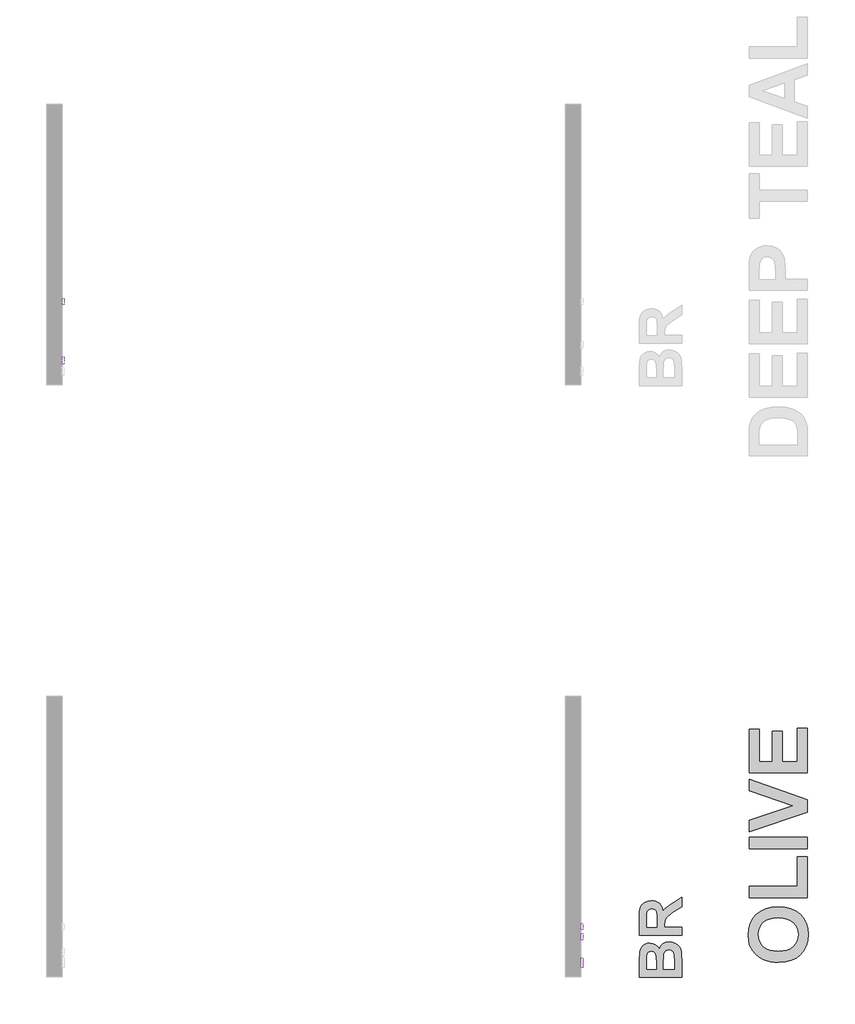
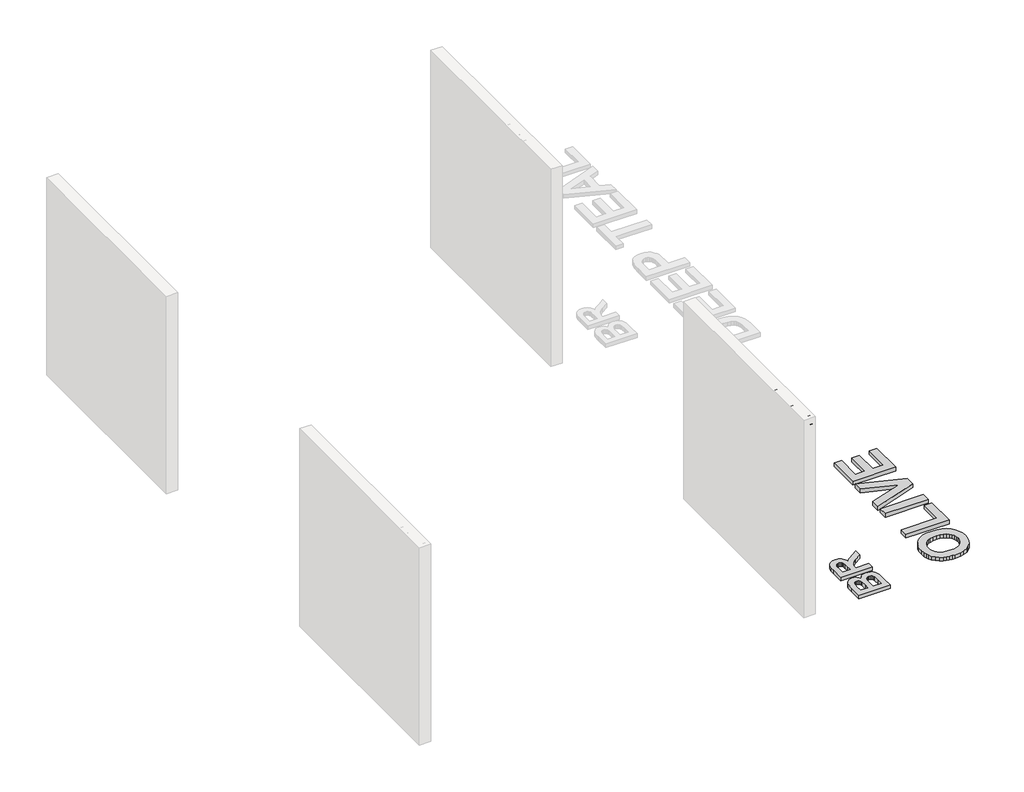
# One storey, part 2 of 10: 7 proxies.
"""IFC4 building model written with IfcOpenShell, lengths in millimetres."""

from ifc_helpers import new_model, si_unit, frame, origin, origin_with_axes, place, context, project, spatial, polyline, outline, extrude, element, save

model = new_model("IFC4")

# Units and contexts
model_context = context("Model", 3, world=origin())
ifc_project = project(units=[si_unit("LENGTHUNIT", "METRE", prefix="MILLI")], contexts=[model_context])

# Site, building, storey
site = spatial("IfcSite", under=ifc_project)
building = spatial("IfcBuilding", under=site)
storey = spatial("IfcBuildingStorey", under=building, Name="PORTOBELLO - SHOWROOM", Elevation=0.0)

# Proxies
placement = place(None, origin())
element("IfcBuildingElementProxy", 1, Name="10mm Arial", ObjectType="10mm Arial", at=placement, inside=storey, context=model_context, shape_type="SweptSolid", body=[
    extrude(outline(polyline([(-1939.686688, 2410.158275), (-1927.1296493, 2411.7279049), (-1920.8020789, 2398.7907214), (-1907.6809544, 2394.4619766), (-1898.6801083, 2395.9672271), (-1891.935605, 2400.4829786), (-1887.7233562, 2407.4880649), (-1886.3192733, 2416.4613199), (-1891.5799858, 2431.3728034), (-1898.1865333, 2435.4746877), (-1907.4847507, 2436.8419824), (-1918.5089478, 2434.6592159), (-1925.5600194, 2428.9938332), (-1938.1170582, 2430.563463), (-1927.1296493, 2482.361248), (-1878.471124, 2482.361248), (-1878.471124, 2469.8042092), (-1916.9761062, 2469.8042092), (-1922.3717088, 2442.1394832), (-1913.4015195, 2447.5841367), (-1904.0021345, 2449.3990212), (-1892.2666988, 2447.1488097), (-1882.517826, 2440.3981751), (-1875.9511324, 2430.1097419), (-1873.7622345, 2417.2461348), (-1875.7304032, 2404.6890961), (-1881.6349092, 2393.9469418), (-1892.9411492, 2384.9154388), (-1907.7300054, 2381.9049378), (-1920.0632493, 2383.839384), (-1929.8887642, 2389.6427224), (-1936.6240704, 2398.6405029), (-1939.686688, 2410.158275)])), frame((-12116.0080774, 0.0, 0.0), z_axis=(1.0, 0.0, 0.0), x_axis=(0.0, 1.0, 0.0)), (0.0, 0.0, 1.0), 20.0),
    extrude(outline(polyline([(-1856.4963062, 2383.4745677), (-1856.4963062, 2396.0316064), (-1843.9392674, 2396.0316064), (-1843.9392674, 2383.4745677), (-1846.1956103, 2370.635486), (-1853.3570465, 2363.0693797), (-1856.4963062, 2367.7782692), (-1851.8855185, 2373.1983973), (-1850.2423123, 2383.4745677), (-1856.4963062, 2383.4745677)])), frame((-12116.0080774, 0.0, 0.0), z_axis=(1.0, 0.0, 0.0), x_axis=(0.0, 1.0, 0.0)), (0.0, 0.0, 1.0), 20.0),
    extrude(outline(polyline([(-1782.7237034, 2383.4745677), (-1782.7237034, 2407.0190154), (-1828.2429689, 2407.0190154), (-1828.2429689, 2419.5760541), (-1779.5844437, 2482.361248), (-1770.1666646, 2482.361248), (-1770.1666646, 2419.5760541), (-1757.6096259, 2419.5760541), (-1757.6096259, 2407.0190154), (-1770.1666646, 2407.0190154), (-1770.1666646, 2383.4745677), (-1782.7237034, 2383.4745677)]), holes=[polyline([(-1782.7237034, 2419.5760541), (-1782.7237034, 2458.3753419), (-1812.7919252, 2419.5760541), (-1782.7237034, 2419.5760541)])]), frame((-12116.0080774, 0.0, 0.0), z_axis=(1.0, 0.0, 0.0), x_axis=(0.0, 1.0, 0.0)), (0.0, 0.0, 1.0), 20.0),
    extrude(outline(polyline([(-1751.3311065, 2383.4745677), (-1724.5002463, 2420.5815982), (-1749.7614766, 2457.2471704), (-1734.7028403, 2457.2471704), (-1722.5136835, 2439.5643092), (-1716.7992499, 2431.2501761), (-1711.8451057, 2438.0682557), (-1697.9636917, 2457.2471704), (-1682.8560045, 2457.2471704), (-1709.392559, 2420.5570728), (-1683.8370231, 2383.4745677), (-1698.9201849, 2383.4745677), (-1714.3221778, 2405.792742), (-1717.1180809, 2409.8884949), (-1736.2234192, 2383.4745677), (-1751.3311065, 2383.4745677)])), frame((-12116.0080774, 0.0, 0.0), z_axis=(1.0, 0.0, 0.0), x_axis=(0.0, 1.0, 0.0)), (0.0, 0.0, 1.0), 20.0),
    extrude(outline(polyline([(-1628.8999785, 2383.4745677), (-1641.4570173, 2383.4745677), (-1641.4570173, 2461.7598562), (-1653.3518684, 2453.2863076), (-1666.5710948, 2446.9464746), (-1666.5710948, 2458.8168003), (-1648.1647323, 2470.5644987), (-1636.9933824, 2483.9308778), (-1628.8999785, 2483.9308778), (-1628.8999785, 2383.4745677)])), frame((-12116.0080774, 0.0, 0.0), z_axis=(1.0, 0.0, 0.0), x_axis=(0.0, 1.0, 0.0)), (0.0, 0.0, 1.0), 20.0),
    extrude(outline(polyline([(-1551.988116, 2383.4745677), (-1564.5451548, 2383.4745677), (-1564.5451548, 2461.7598562), (-1576.440006, 2453.2863076), (-1589.6592323, 2446.9464746), (-1589.6592323, 2458.8168003), (-1571.2528699, 2470.5644987), (-1560.0815199, 2483.9308778), (-1551.988116, 2483.9308778), (-1551.988116, 2383.4745677)])), frame((-12116.0080774, 0.0, 0.0), z_axis=(1.0, 0.0, 0.0), x_axis=(0.0, 1.0, 0.0)), (0.0, 0.0, 1.0), 20.0),
    extrude(outline(polyline([(-1515.8866296, 2383.4745677), (-1515.8866296, 2396.0316064), (-1503.3295908, 2396.0316064), (-1503.3295908, 2383.4745677), (-1505.5859337, 2370.635486), (-1512.7473699, 2363.0693797), (-1515.8866296, 2367.7782692), (-1511.2758419, 2373.1983973), (-1509.6326357, 2383.4745677), (-1515.8866296, 2383.4745677)])), frame((-12116.0080774, 0.0, 0.0), z_axis=(1.0, 0.0, 0.0), x_axis=(0.0, 1.0, 0.0)), (0.0, 0.0, 1.0), 20.0),
    extrude(outline(polyline([(-1482.9244028, 2410.158275), (-1470.367364, 2411.7279049), (-1464.0397937, 2398.7907214), (-1450.9186692, 2394.4619766), (-1441.9178231, 2395.9672271), (-1435.1733198, 2400.4829786), (-1430.961071, 2407.4880649), (-1429.556988, 2416.4613199), (-1434.8177006, 2431.3728034), (-1441.4242481, 2435.4746877), (-1450.7224655, 2436.8419824), (-1461.7466626, 2434.6592159), (-1468.7977342, 2428.9938332), (-1481.354773, 2430.563463), (-1470.367364, 2482.361248), (-1421.7088388, 2482.361248), (-1421.7088388, 2469.8042092), (-1460.213821, 2469.8042092), (-1465.6094236, 2442.1394832), (-1456.6392343, 2447.5841367), (-1447.2398493, 2449.3990212), (-1435.5044136, 2447.1488097), (-1425.7555408, 2440.3981751), (-1419.1888471, 2430.1097419), (-1416.9999493, 2417.2461348), (-1418.9681179, 2404.6890961), (-1424.872624, 2393.9469418), (-1436.178864, 2384.9154388), (-1450.9677202, 2381.9049378), (-1463.3009641, 2383.839384), (-1473.126479, 2389.6427224), (-1479.8617852, 2398.6405029), (-1482.9244028, 2410.158275)])), frame((-12116.0080774, 0.0, 0.0), z_axis=(1.0, 0.0, 0.0), x_axis=(0.0, 1.0, 0.0)), (0.0, 0.0, 1.0), 20.0),
])
element("IfcBuildingElementProxy", 2, Name="10mm Arial", ObjectType="10mm Arial", at=placement, inside=storey, context=model_context, shape_type="SweptSolid", body=[
    extrude(outline(polyline([(-7639.686688, 2567.3783476), (-7636.3389619, 2589.5922887), (-7626.2957834, 2606.3983645), (-7610.9612356, 2616.9749719), (-7591.7394013, 2620.5005077), (-7578.5630945, 2618.8450387), (-7566.7479511, 2613.8786317), (-7556.9377646, 2605.9507747), (-7549.7763284, 2595.4109556), (-7545.3985327, 2582.7680777), (-7543.9392674, 2568.5310445), (-7545.4751747, 2554.1039389), (-7550.0828967, 2541.2832514), (-7557.5079817, 2530.7250381), (-7567.4959778, 2523.0853553), (-7579.2099537, 2518.4500422), (-7591.8129777, 2516.9049378), (-7605.1916196, 2518.6125234), (-7617.0742081, 2523.7352802), (-7626.8598691, 2531.81029), (-7633.9477289, 2542.3746346), (-7639.686688, 2567.3783476)]), holes=[polyline([(-7627.1296493, 2567.2557202), (-7624.6188546, 2551.5410277), (-7617.0864708, 2539.5664687), (-7605.7649024, 2531.9880996), (-7591.8865541, 2529.4619766), (-7577.8058707, 2532.0126251), (-7566.4659082, 2539.6645706), (-7558.9887067, 2552.0070115), (-7556.4963062, 2568.6291463), (-7560.7637373, 2589.3531654), (-7573.234937, 2603.0751638), (-7591.6658249, 2607.9434689), (-7605.1732255, 2605.5982212), (-7616.6572751, 2598.562478), (-7624.5115557, 2586.0452931), (-7627.1296493, 2567.2557202)])]), frame((-7116.0080774, 0.0, 0.0), z_axis=(1.0, 0.0, 0.0), x_axis=(0.0, 1.0, 0.0)), (0.0, 0.0, 1.0), 20.0),
    extrude(outline(polyline([(-7096.0080774, -7515.6859302), (-7096.0080774, -7528.2429689), (-7116.0080774, -7528.2429689), (-7116.0080774, -7515.6859302), (-7096.0080774, -7515.6859302)])), frame((0.0, 0.0, 2518.4745677), z_axis=(0.0, 0.0, 1.0), x_axis=(1.0, 0.0, 0.0)), (0.0, 0.0, 1.0), 100.4563101),
    extrude(outline(polyline([(-7096.0080774, -7484.2933333), (-7096.0080774, -7496.850372), (-7116.0080774, -7496.850372), (-7116.0080774, -7484.2933333), (-7096.0080774, -7484.2933333)])), frame((0.0, 0.0, 2518.4745677), z_axis=(0.0, 0.0, 1.0), x_axis=(1.0, 0.0, 0.0)), (0.0, 0.0, 1.0), 73.7726028),
    extrude(outline(polyline([(-7096.0080774, -7484.2933333), (-7096.0080774, -7496.850372), (-7116.0080774, -7496.850372), (-7116.0080774, -7484.2933333), (-7096.0080774, -7484.2933333)])), frame((0.0, 0.0, 2606.373839), z_axis=(0.0, 0.0, 1.0), x_axis=(1.0, 0.0, 0.0)), (0.0, 0.0, 1.0), 12.5570388),
    extrude(outline(polyline([(-7447.30893, 2518.4745677), (-7473.3059243, 2592.2471704), (-7460.037647, 2592.2471704), (-7444.2922976, 2548.0522801), (-7439.5588826, 2533.1898475), (-7434.9235695, 2547.2184142), (-7419.1046437, 2592.2471704), (-7405.811841, 2592.2471704), (-7431.4409533, 2518.4745677), (-7447.30893, 2518.4745677)])), frame((-7116.0080774, 0.0, 0.0), z_axis=(1.0, 0.0, 0.0), x_axis=(0.0, 1.0, 0.0)), (0.0, 0.0, 1.0), 20.0),
    extrude(outline(polyline([(-7343.1737999, 2540.4493855), (-7330.8620158, 2538.8797557), (-7335.2980595, 2529.602998), (-7342.3767223, 2522.6684224), (-7351.9385884, 2518.345809), (-7363.8242426, 2516.9049378), (-7378.5579165, 2519.391207), (-7389.8948133, 2526.8500144), (-7397.1236945, 2538.7969822), (-7399.5333216, 2554.7477324), (-7397.099169, 2571.2349771), (-7389.7967114, 2583.5651553), (-7378.6130988, 2591.253889), (-7364.5354811, 2593.8168003), (-7350.8962561, 2591.2600204), (-7339.997752, 2583.5896808), (-7332.8516443, 2571.2840281), (-7330.4696083, 2554.8213088), (-7330.5431847, 2551.4367944), (-7386.9762828, 2551.4367944), (-7384.8027133, 2542.0374095), (-7379.753533, 2535.1273593), (-7372.4664038, 2530.8783223), (-7363.5789879, 2529.4619766), (-7351.2672038, 2532.0862015), (-7343.1737999, 2540.4493855)]), holes=[polyline([(-7386.9762828, 2563.9938332), (-7343.0266471, 2563.9938332), (-7348.0543677, 2575.3736496), (-7355.3752194, 2579.7882335), (-7364.584532, 2581.2597615), (-7380.0478386, 2576.5631347), (-7384.9130779, 2571.0724959), (-7386.9762828, 2563.9938332)])]), frame((-7116.0080774, 0.0, 0.0), z_axis=(1.0, 0.0, 0.0), x_axis=(0.0, 1.0, 0.0)), (0.0, 0.0, 1.0), 20.0),
])
element("IfcBuildingElementProxy", 3, Name="10mm Arial", ObjectType="10mm Arial", at=placement, inside=storey, context=model_context, shape_type="SweptSolid", body=[
    extrude(outline(polyline([(-7592.5977926, 2383.4745677), (-7605.1548314, 2383.4745677), (-7605.1548314, 2461.7598562), (-7617.0496826, 2453.2863076), (-7630.2689089, 2446.9464746), (-7630.2689089, 2458.8168003), (-7611.8625465, 2470.5644987), (-7600.6911965, 2483.9308778), (-7592.5977926, 2483.9308778), (-7592.5977926, 2383.4745677)])), frame((-7116.0080774, 0.0, 0.0), z_axis=(1.0, 0.0, 0.0), x_axis=(0.0, 1.0, 0.0)), (0.0, 0.0, 1.0), 20.0),
    extrude(outline(polyline([(-7515.6859302, 2383.4745677), (-7528.2429689, 2383.4745677), (-7528.2429689, 2461.7598562), (-7540.1378201, 2453.2863076), (-7553.3570465, 2446.9464746), (-7553.3570465, 2458.8168003), (-7534.950684, 2470.5644987), (-7523.7793341, 2483.9308778), (-7515.6859302, 2483.9308778), (-7515.6859302, 2383.4745677)])), frame((-7116.0080774, 0.0, 0.0), z_axis=(1.0, 0.0, 0.0), x_axis=(0.0, 1.0, 0.0)), (0.0, 0.0, 1.0), 20.0),
    extrude(outline(polyline([(-7479.5844437, 2383.4745677), (-7479.5844437, 2396.0316064), (-7467.027405, 2396.0316064), (-7467.027405, 2383.4745677), (-7469.2837479, 2370.635486), (-7476.445184, 2363.0693797), (-7479.5844437, 2367.7782692), (-7474.973656, 2373.1983973), (-7473.3304498, 2383.4745677), (-7479.5844437, 2383.4745677)])), frame((-7116.0080774, 0.0, 0.0), z_axis=(1.0, 0.0, 0.0), x_axis=(0.0, 1.0, 0.0)), (0.0, 0.0, 1.0), 20.0),
    extrude(outline(polyline([(-7446.622217, 2410.158275), (-7434.0651782, 2411.7279049), (-7427.7376079, 2398.7907214), (-7414.6164834, 2394.4619766), (-7405.6156372, 2395.9672271), (-7398.871134, 2400.4829786), (-7394.6588851, 2407.4880649), (-7393.2548022, 2416.4613199), (-7398.5155147, 2431.3728034), (-7405.1220622, 2435.4746877), (-7414.4202796, 2436.8419824), (-7425.4444768, 2434.6592159), (-7432.4955483, 2428.9938332), (-7445.0525871, 2430.563463), (-7434.0651782, 2482.361248), (-7385.406653, 2482.361248), (-7385.406653, 2469.8042092), (-7423.9116351, 2469.8042092), (-7429.3072377, 2442.1394832), (-7420.3370484, 2447.5841367), (-7410.9376634, 2449.3990212), (-7399.2022278, 2447.1488097), (-7389.4533549, 2440.3981751), (-7382.8866613, 2430.1097419), (-7380.6977634, 2417.2461348), (-7382.6659321, 2404.6890961), (-7388.5704381, 2393.9469418), (-7399.8766781, 2384.9154388), (-7414.6655343, 2381.9049378), (-7426.9987782, 2383.839384), (-7436.8242931, 2389.6427224), (-7443.5595993, 2398.6405029), (-7446.622217, 2410.158275)])), frame((-7116.0080774, 0.0, 0.0), z_axis=(1.0, 0.0, 0.0), x_axis=(0.0, 1.0, 0.0)), (0.0, 0.0, 1.0), 20.0),
    extrude(outline(polyline([(-7374.419244, 2383.4745677), (-7347.5883839, 2420.5815982), (-7372.8496142, 2457.2471704), (-7357.7909779, 2457.2471704), (-7345.6018211, 2439.5643092), (-7339.8873874, 2431.2501761), (-7334.9332432, 2438.0682557), (-7321.0518293, 2457.2471704), (-7305.944142, 2457.2471704), (-7332.4806966, 2420.5570728), (-7306.9251607, 2383.4745677), (-7322.0083225, 2383.4745677), (-7337.4103153, 2405.792742), (-7340.2062185, 2409.8884949), (-7359.3115568, 2383.4745677), (-7374.419244, 2383.4745677)])), frame((-7116.0080774, 0.0, 0.0), z_axis=(1.0, 0.0, 0.0), x_axis=(0.0, 1.0, 0.0)), (0.0, 0.0, 1.0), 20.0),
    extrude(outline(polyline([(-7251.988116, 2383.4745677), (-7264.5451548, 2383.4745677), (-7264.5451548, 2461.7598562), (-7276.440006, 2453.2863076), (-7289.6592323, 2446.9464746), (-7289.6592323, 2458.8168003), (-7271.2528699, 2470.5644987), (-7260.0815199, 2483.9308778), (-7251.988116, 2483.9308778), (-7251.988116, 2383.4745677)])), frame((-7116.0080774, 0.0, 0.0), z_axis=(1.0, 0.0, 0.0), x_axis=(0.0, 1.0, 0.0)), (0.0, 0.0, 1.0), 20.0),
    extrude(outline(polyline([(-7175.0762536, 2383.4745677), (-7187.6332923, 2383.4745677), (-7187.6332923, 2461.7598562), (-7199.5281435, 2453.2863076), (-7212.7473699, 2446.9464746), (-7212.7473699, 2458.8168003), (-7194.3410074, 2470.5644987), (-7183.1696575, 2483.9308778), (-7175.0762536, 2483.9308778), (-7175.0762536, 2383.4745677)])), frame((-7116.0080774, 0.0, 0.0), z_axis=(1.0, 0.0, 0.0), x_axis=(0.0, 1.0, 0.0)), (0.0, 0.0, 1.0), 20.0),
    extrude(outline(polyline([(-7138.9747671, 2383.4745677), (-7138.9747671, 2396.0316064), (-7126.4177284, 2396.0316064), (-7126.4177284, 2383.4745677), (-7128.6740713, 2370.635486), (-7135.8355074, 2363.0693797), (-7138.9747671, 2367.7782692), (-7134.3639794, 2373.1983973), (-7132.7207732, 2383.4745677), (-7138.9747671, 2383.4745677)])), frame((-7116.0080774, 0.0, 0.0), z_axis=(1.0, 0.0, 0.0), x_axis=(0.0, 1.0, 0.0)), (0.0, 0.0, 1.0), 20.0),
    extrude(outline(polyline([(-7106.0125404, 2410.158275), (-7093.4555016, 2411.7279049), (-7087.1279313, 2398.7907214), (-7074.0068068, 2394.4619766), (-7065.0059606, 2395.9672271), (-7058.2614574, 2400.4829786), (-7054.0492085, 2407.4880649), (-7052.6451256, 2416.4613199), (-7057.9058381, 2431.3728034), (-7064.5123856, 2435.4746877), (-7073.810603, 2436.8419824), (-7084.8348002, 2434.6592159), (-7091.8858717, 2428.9938332), (-7104.4429105, 2430.563463), (-7093.4555016, 2482.361248), (-7044.7969764, 2482.361248), (-7044.7969764, 2469.8042092), (-7083.3019585, 2469.8042092), (-7088.6975611, 2442.1394832), (-7079.7273718, 2447.5841367), (-7070.3279868, 2449.3990212), (-7058.5925512, 2447.1488097), (-7048.8436783, 2440.3981751), (-7042.2769847, 2430.1097419), (-7040.0880868, 2417.2461348), (-7042.0562555, 2404.6890961), (-7047.9607615, 2393.9469418), (-7059.2670015, 2384.9154388), (-7074.0558577, 2381.9049378), (-7086.3891016, 2383.839384), (-7096.2146165, 2389.6427224), (-7102.9499227, 2398.6405029), (-7106.0125404, 2410.158275)])), frame((-7116.0080774, 0.0, 0.0), z_axis=(1.0, 0.0, 0.0), x_axis=(0.0, 1.0, 0.0)), (0.0, 0.0, 1.0), 20.0),
])
element("IfcBuildingElementProxy", 4, Name="10mm Arial Narrow", ObjectType="10mm Arial Narrow", at=placement, inside=storey, context=model_context, shape_type="SweptSolid", body=[
    extrude(outline(polyline([(-1253.0722036, 2518.4745677), (-1253.0722036, 2615.7916181), (-1222.8323036, 2615.7916181), (-1207.0869542, 2613.9767336), (-1196.0014434, 2604.8164719), (-1191.8566396, 2588.3721467), (-1193.5826193, 2576.7041561), (-1198.7605584, 2567.402873), (-1208.1752718, 2561.314426), (-1222.6115744, 2559.2849437), (-1243.6544246, 2559.2849437), (-1243.6544246, 2518.4745677), (-1253.0722036, 2518.4745677)]), holes=[polyline([(-1243.6544246, 2570.2723526), (-1221.4588775, 2570.2723526), (-1206.130461, 2574.6501483), (-1201.2744187, 2587.857112), (-1203.6656517, 2597.6795612), (-1209.441399, 2603.2836303), (-1221.6796067, 2604.8042092), (-1243.6544246, 2604.8042092), (-1243.6544246, 2570.2723526)])]), frame((-12116.0080774, 0.0, 0.0), z_axis=(1.0, 0.0, 0.0), x_axis=(0.0, 1.0, 0.0)), (0.0, 0.0, 1.0), 20.0),
    extrude(outline(polyline([(-1184.0084904, 2553.7912392), (-1182.1200295, 2569.8216971), (-1176.4546468, 2581.3701261), (-1167.895259, 2588.350687), (-1157.324783, 2590.6775406), (-1146.8769344, 2588.350687), (-1138.2930211, 2581.3701261), (-1132.554062, 2570.0056381), (-1130.6410756, 2554.5270032), (-1132.5203395, 2537.9447223), (-1138.1581311, 2526.2123523), (-1146.7083218, 2519.2317914), (-1157.324783, 2516.9049378), (-1167.8186169, 2519.2379228), (-1176.3933331, 2526.2368778), (-1182.1047011, 2537.7914381), (-1184.0084904, 2553.7912392)]), holes=[polyline([(-1174.5907113, 2553.8157647), (-1173.3307155, 2541.6879216), (-1169.550728, 2533.1162711), (-1163.906805, 2528.0211054), (-1157.0550029, 2526.3227169), (-1150.5618857, 2528.0364339), (-1145.0620498, 2533.1775847), (-1141.3096535, 2541.7645636), (-1140.0588547, 2553.8157647), (-1141.3188505, 2565.9068196), (-1145.098838, 2574.4662073), (-1150.742761, 2579.561373), (-1157.5945631, 2581.2597615), (-1164.1336656, 2579.5521759), (-1169.6243044, 2574.4294191), (-1173.3491096, 2565.8608343), (-1174.5907113, 2553.8157647)])]), frame((-12116.0080774, 0.0, 0.0), z_axis=(1.0, 0.0, 0.0), x_axis=(0.0, 1.0, 0.0)), (0.0, 0.0, 1.0), 20.0),
    extrude(outline(polyline([(-1061.5773624, 2526.3227169), (-1060.0077326, 2516.9049378), (-1067.1201178, 2516.9049378), (-1075.1154198, 2518.9528143), (-1079.2847491, 2524.5568833), (-1080.4129206, 2538.7080774), (-1080.4129206, 2579.6901317), (-1088.2610698, 2579.6901317), (-1088.2610698, 2582.8293914), (-1089.8306996, 2578.1205018), (-1097.1392886, 2579.6901317), (-1103.0131378, 2577.4460515), (-1106.7532714, 2571.1797948), (-1108.6662578, 2556.2928368), (-1108.6662578, 2518.4745677), (-1118.0840369, 2518.4745677), (-1118.0840369, 2589.1079107), (-1108.6662578, 2589.1079107), (-1108.6662578, 2579.7391826), (-1102.6329931, 2588.5192995), (-1096.4525756, 2590.6775406), (-1088.2610698, 2589.1079107), (-1080.4129206, 2589.1079107), (-1080.4129206, 2604.8042092), (-1070.9951415, 2612.6523584), (-1070.9951415, 2589.1079107), (-1061.5773624, 2589.1079107), (-1061.5773624, 2579.6901317), (-1070.9951415, 2579.6901317), (-1070.9951415, 2536.5498364), (-1070.1612756, 2528.8243145), (-1065.6976408, 2526.3227169), (-1061.5773624, 2526.3227169)])), frame((-12116.0080774, 0.0, 0.0), z_axis=(1.0, 0.0, 0.0), x_axis=(0.0, 1.0, 0.0)), (0.0, 0.0, 1.0), 20.0),
    extrude(outline(polyline([(-1055.298843, 2553.7912392), (-1053.4103821, 2569.8216971), (-1047.7449994, 2581.3701261), (-1039.1856116, 2588.350687), (-1028.6151356, 2590.6775406), (-1018.167287, 2588.350687), (-1009.5833738, 2581.3701261), (-1003.8444146, 2570.0056381), (-1001.9314283, 2554.5270032), (-1003.8106921, 2537.9447223), (-1009.4484837, 2526.2123523), (-1017.9986744, 2519.2317914), (-1028.6151356, 2516.9049378), (-1039.1089696, 2519.2379228), (-1047.6836857, 2526.2368778), (-1053.3950537, 2537.7914381), (-1055.298843, 2553.7912392)]), holes=[polyline([(-1045.8810639, 2553.8157647), (-1044.6210681, 2541.6879216), (-1040.8410806, 2533.1162711), (-1035.1971577, 2528.0211054), (-1028.3453555, 2526.3227169), (-1021.8522383, 2528.0364339), (-1016.3524025, 2533.1775847), (-1012.6000061, 2541.7645636), (-1011.3492073, 2553.8157647), (-1012.6092032, 2565.9068196), (-1016.3891907, 2574.4662073), (-1022.0331136, 2579.561373), (-1028.8849158, 2581.2597615), (-1035.4240182, 2579.5521759), (-1040.914657, 2574.4294191), (-1044.6394622, 2565.8608343), (-1045.8810639, 2553.8157647)])]), frame((-12116.0080774, 0.0, 0.0), z_axis=(1.0, 0.0, 0.0), x_axis=(0.0, 1.0, 0.0)), (0.0, 0.0, 1.0), 20.0),
    extrude(outline(polyline([(-979.9566104, 2518.4745677), (-989.3743895, 2518.4745677), (-989.3743895, 2615.7916181), (-979.9566104, 2615.7916181), (-979.9566104, 2581.5785926), (-972.807437, 2588.4211977), (-963.9169554, 2590.6775406), (-951.4702813, 2586.6185759), (-942.5062233, 2574.3190545), (-939.1462344, 2554.3307995), (-941.0132355, 2538.4321659), (-946.6142389, 2526.641548), (-954.7045771, 2519.3390904), (-964.0395828, 2516.9049378), (-973.0649544, 2519.4310609), (-979.9566104, 2526.9358536), (-979.9566104, 2518.4745677)]), holes=[polyline([(-979.9566104, 2554.3307995), (-977.9455222, 2537.6657451), (-972.255614, 2529.2289847), (-964.0886337, 2526.3227169), (-958.3466089, 2528.0517623), (-953.2851658, 2533.2388984), (-948.5640135, 2553.938392), (-953.1134875, 2574.6501483), (-958.181062, 2579.6073582), (-964.2848374, 2581.2597615), (-970.0605847, 2579.5307161), (-975.1741445, 2574.34358), (-979.9566104, 2554.3307995)])]), frame((-12116.0080774, 0.0, 0.0), z_axis=(1.0, 0.0, 0.0), x_axis=(0.0, 1.0, 0.0)), (0.0, 0.0, 1.0), 20.0),
    extrude(outline(polyline([(-888.9180793, 2540.4493855), (-879.5003003, 2538.8797557), (-888.6973501, 2522.4476932), (-905.1784635, 2516.9049378), (-916.3804703, 2519.2379228), (-925.2157695, 2526.2368778), (-930.9547287, 2537.6442853), (-932.867715, 2553.202628), (-930.9455316, 2569.3066623), (-925.1789813, 2581.0758205), (-916.4693751, 2588.2771106), (-905.7180238, 2590.6775406), (-895.3958681, 2588.359884), (-886.9437793, 2581.4069143), (-881.3059877, 2570.0638861), (-879.4267239, 2554.5760541), (-879.5003003, 2551.4367944), (-923.449936, 2551.4367944), (-917.6496632, 2532.6502872), (-911.9199011, 2527.9046095), (-905.0558362, 2526.3227169), (-895.2211242, 2529.854384), (-888.9180793, 2540.4493855)]), holes=[polyline([(-922.8122738, 2560.8545735), (-888.9180793, 2560.8545735), (-893.0383577, 2574.6378856), (-898.6669522, 2579.6042925), (-905.6444474, 2581.2597615), (-917.4411967, 2575.7415316), (-922.8122738, 2560.8545735)])]), frame((-12116.0080774, 0.0, 0.0), z_axis=(1.0, 0.0, 0.0), x_axis=(0.0, 1.0, 0.0)), (0.0, 0.0, 1.0), 20.0),
    extrude(outline(polyline([(-12096.0080774, -857.5254824), (-12096.0080774, -866.9432615), (-12116.0080774, -866.9432615), (-12116.0080774, -857.5254824), (-12096.0080774, -857.5254824)])), frame((0.0, 0.0, 2518.4745677), z_axis=(0.0, 0.0, 1.0), x_axis=(1.0, 0.0, 0.0)), (0.0, 0.0, 1.0), 97.3170505),
    extrude(outline(polyline([(-12096.0080774, -832.4114049), (-12096.0080774, -841.829184), (-12116.0080774, -841.829184), (-12116.0080774, -832.4114049), (-12096.0080774, -832.4114049)])), frame((0.0, 0.0, 2518.4745677), z_axis=(0.0, 0.0, 1.0), x_axis=(1.0, 0.0, 0.0)), (0.0, 0.0, 1.0), 97.3170505),
    extrude(outline(polyline([(-821.423996, 2553.7912392), (-819.535535, 2569.8216971), (-813.8701523, 2581.3701261), (-805.3107646, 2588.350687), (-794.7402886, 2590.6775406), (-784.2924399, 2588.350687), (-775.7085267, 2581.3701261), (-769.9695676, 2570.0056381), (-768.0565812, 2554.5270032), (-769.935845, 2537.9447223), (-775.5736366, 2526.2123523), (-784.1238273, 2519.2317914), (-794.7402886, 2516.9049378), (-805.2341225, 2519.2379228), (-813.8088387, 2526.2368778), (-819.5202066, 2537.7914381), (-821.423996, 2553.7912392)]), holes=[polyline([(-812.0062169, 2553.8157647), (-810.746221, 2541.6879216), (-806.9662335, 2533.1162711), (-801.3223106, 2528.0211054), (-794.4705084, 2526.3227169), (-787.9773912, 2528.0364339), (-782.4775554, 2533.1775847), (-778.725159, 2541.7645636), (-777.4743603, 2553.8157647), (-778.7343561, 2565.9068196), (-782.5143436, 2574.4662073), (-788.1582665, 2579.561373), (-795.0100687, 2581.2597615), (-801.5491712, 2579.5521759), (-807.0398099, 2574.4294191), (-810.7646151, 2565.8608343), (-812.0062169, 2553.8157647)])]), frame((-12116.0080774, 0.0, 0.0), z_axis=(1.0, 0.0, 0.0), x_axis=(0.0, 1.0, 0.0)), (0.0, 0.0, 1.0), 20.0),
])
element("IfcBuildingElementProxy", 5, Name="10mm Arial Narrow", ObjectType="10mm Arial Narrow", at=placement, inside=storey, context=model_context, shape_type="SweptSolid", body=[
    extrude(outline(polyline([(-7273.0722036, 2518.4745677), (-7273.0722036, 2615.7916181), (-7242.8323036, 2615.7916181), (-7227.0869542, 2613.9767336), (-7216.0014434, 2604.8164719), (-7211.8566396, 2588.3721467), (-7213.5826193, 2576.7041561), (-7218.7605584, 2567.402873), (-7228.1752718, 2561.314426), (-7242.6115744, 2559.2849437), (-7263.6544246, 2559.2849437), (-7263.6544246, 2518.4745677), (-7273.0722036, 2518.4745677)]), holes=[polyline([(-7263.6544246, 2570.2723526), (-7241.4588775, 2570.2723526), (-7226.130461, 2574.6501483), (-7221.2744187, 2587.857112), (-7223.6656517, 2597.6795612), (-7229.441399, 2603.2836303), (-7241.6796067, 2604.8042092), (-7263.6544246, 2604.8042092), (-7263.6544246, 2570.2723526)])]), frame((-7116.0080774, 0.0, 0.0), z_axis=(1.0, 0.0, 0.0), x_axis=(0.0, 1.0, 0.0)), (0.0, 0.0, 1.0), 20.0),
    extrude(outline(polyline([(-7204.0084904, 2553.7912392), (-7202.1200295, 2569.8216971), (-7196.4546468, 2581.3701261), (-7187.895259, 2588.350687), (-7177.324783, 2590.6775406), (-7166.8769344, 2588.350687), (-7158.2930211, 2581.3701261), (-7152.554062, 2570.0056381), (-7150.6410756, 2554.5270032), (-7152.5203395, 2537.9447223), (-7158.1581311, 2526.2123523), (-7166.7083218, 2519.2317914), (-7177.324783, 2516.9049378), (-7187.8186169, 2519.2379228), (-7196.3933331, 2526.2368778), (-7202.1047011, 2537.7914381), (-7204.0084904, 2553.7912392)]), holes=[polyline([(-7194.5907113, 2553.8157647), (-7193.3307155, 2541.6879216), (-7189.550728, 2533.1162711), (-7183.906805, 2528.0211054), (-7177.0550029, 2526.3227169), (-7170.5618857, 2528.0364339), (-7165.0620498, 2533.1775847), (-7161.3096535, 2541.7645636), (-7160.0588547, 2553.8157647), (-7161.3188505, 2565.9068196), (-7165.098838, 2574.4662073), (-7170.742761, 2579.561373), (-7177.5945631, 2581.2597615), (-7184.1336656, 2579.5521759), (-7189.6243044, 2574.4294191), (-7193.3491096, 2565.8608343), (-7194.5907113, 2553.8157647)])]), frame((-7116.0080774, 0.0, 0.0), z_axis=(1.0, 0.0, 0.0), x_axis=(0.0, 1.0, 0.0)), (0.0, 0.0, 1.0), 20.0),
    extrude(outline(polyline([(-7081.5773624, 2526.3227169), (-7080.0077326, 2516.9049378), (-7087.1201178, 2516.9049378), (-7095.1154198, 2518.9528143), (-7099.2847491, 2524.5568833), (-7100.4129206, 2538.7080774), (-7100.4129206, 2579.6901317), (-7108.2610698, 2579.6901317), (-7108.2610698, 2582.8293914), (-7109.8306996, 2578.1205018), (-7117.1392886, 2579.6901317), (-7123.0131378, 2577.4460515), (-7126.7532714, 2571.1797948), (-7128.6662578, 2556.2928368), (-7128.6662578, 2518.4745677), (-7138.0840369, 2518.4745677), (-7138.0840369, 2589.1079107), (-7128.6662578, 2589.1079107), (-7128.6662578, 2579.7391826), (-7122.6329931, 2588.5192995), (-7116.4525756, 2590.6775406), (-7108.2610698, 2589.1079107), (-7100.4129206, 2589.1079107), (-7100.4129206, 2604.8042092), (-7090.9951415, 2612.6523584), (-7090.9951415, 2589.1079107), (-7081.5773624, 2589.1079107), (-7081.5773624, 2579.6901317), (-7090.9951415, 2579.6901317), (-7090.9951415, 2536.5498364), (-7090.1612756, 2528.8243145), (-7085.6976408, 2526.3227169), (-7081.5773624, 2526.3227169)])), frame((-7116.0080774, 0.0, 0.0), z_axis=(1.0, 0.0, 0.0), x_axis=(0.0, 1.0, 0.0)), (0.0, 0.0, 1.0), 20.0),
    extrude(outline(polyline([(-7075.298843, 2553.7912392), (-7073.4103821, 2569.8216971), (-7067.7449994, 2581.3701261), (-7059.1856116, 2588.350687), (-7048.6151356, 2590.6775406), (-7038.167287, 2588.350687), (-7029.5833738, 2581.3701261), (-7023.8444146, 2570.0056381), (-7021.9314283, 2554.5270032), (-7023.8106921, 2537.9447223), (-7029.4484837, 2526.2123523), (-7037.9986744, 2519.2317914), (-7048.6151356, 2516.9049378), (-7059.1089696, 2519.2379228), (-7067.6836857, 2526.2368778), (-7073.3950537, 2537.7914381), (-7075.298843, 2553.7912392)]), holes=[polyline([(-7065.8810639, 2553.8157647), (-7064.6210681, 2541.6879216), (-7060.8410806, 2533.1162711), (-7055.1971577, 2528.0211054), (-7048.3453555, 2526.3227169), (-7041.8522383, 2528.0364339), (-7036.3524025, 2533.1775847), (-7032.6000061, 2541.7645636), (-7031.3492073, 2553.8157647), (-7032.6092032, 2565.9068196), (-7036.3891907, 2574.4662073), (-7042.0331136, 2579.561373), (-7048.8849158, 2581.2597615), (-7055.4240182, 2579.5521759), (-7060.914657, 2574.4294191), (-7064.6394622, 2565.8608343), (-7065.8810639, 2553.8157647)])]), frame((-7116.0080774, 0.0, 0.0), z_axis=(1.0, 0.0, 0.0), x_axis=(0.0, 1.0, 0.0)), (0.0, 0.0, 1.0), 20.0),
    extrude(outline(polyline([(-6999.9566104, 2518.4745677), (-7009.3743895, 2518.4745677), (-7009.3743895, 2615.7916181), (-6999.9566104, 2615.7916181), (-6999.9566104, 2581.5785926), (-6992.807437, 2588.4211977), (-6983.9169554, 2590.6775406), (-6971.4702813, 2586.6185759), (-6962.5062233, 2574.3190545), (-6959.1462344, 2554.3307995), (-6961.0132355, 2538.4321659), (-6966.6142389, 2526.641548), (-6974.7045771, 2519.3390904), (-6984.0395828, 2516.9049378), (-6993.0649544, 2519.4310609), (-6999.9566104, 2526.9358536), (-6999.9566104, 2518.4745677)]), holes=[polyline([(-6999.9566104, 2554.3307995), (-6997.9455222, 2537.6657451), (-6992.255614, 2529.2289847), (-6984.0886337, 2526.3227169), (-6978.3466089, 2528.0517623), (-6973.2851658, 2533.2388984), (-6968.5640135, 2553.938392), (-6973.1134875, 2574.6501483), (-6978.181062, 2579.6073582), (-6984.2848374, 2581.2597615), (-6990.0605847, 2579.5307161), (-6995.1741445, 2574.34358), (-6999.9566104, 2554.3307995)])]), frame((-7116.0080774, 0.0, 0.0), z_axis=(1.0, 0.0, 0.0), x_axis=(0.0, 1.0, 0.0)), (0.0, 0.0, 1.0), 20.0),
    extrude(outline(polyline([(-6908.9180793, 2540.4493855), (-6899.5003003, 2538.8797557), (-6908.6973501, 2522.4476932), (-6925.1784635, 2516.9049378), (-6936.3804703, 2519.2379228), (-6945.2157695, 2526.2368778), (-6950.9547287, 2537.6442853), (-6952.867715, 2553.202628), (-6950.9455316, 2569.3066623), (-6945.1789813, 2581.0758205), (-6936.4693751, 2588.2771106), (-6925.7180238, 2590.6775406), (-6915.3958681, 2588.359884), (-6906.9437793, 2581.4069143), (-6901.3059877, 2570.0638861), (-6899.4267239, 2554.5760541), (-6899.5003003, 2551.4367944), (-6943.449936, 2551.4367944), (-6937.6496632, 2532.6502872), (-6931.9199011, 2527.9046095), (-6925.0558362, 2526.3227169), (-6915.2211242, 2529.854384), (-6908.9180793, 2540.4493855)]), holes=[polyline([(-6942.8122738, 2560.8545735), (-6908.9180793, 2560.8545735), (-6913.0383577, 2574.6378856), (-6918.6669522, 2579.6042925), (-6925.6444474, 2581.2597615), (-6937.4411967, 2575.7415316), (-6942.8122738, 2560.8545735)])]), frame((-7116.0080774, 0.0, 0.0), z_axis=(1.0, 0.0, 0.0), x_axis=(0.0, 1.0, 0.0)), (0.0, 0.0, 1.0), 20.0),
    extrude(outline(polyline([(-7096.0080774, -6877.5254824), (-7096.0080774, -6886.9432615), (-7116.0080774, -6886.9432615), (-7116.0080774, -6877.5254824), (-7096.0080774, -6877.5254824)])), frame((0.0, 0.0, 2518.4745677), z_axis=(0.0, 0.0, 1.0), x_axis=(1.0, 0.0, 0.0)), (0.0, 0.0, 1.0), 97.3170505),
    extrude(outline(polyline([(-7096.0080774, -6852.4114049), (-7096.0080774, -6861.829184), (-7116.0080774, -6861.829184), (-7116.0080774, -6852.4114049), (-7096.0080774, -6852.4114049)])), frame((0.0, 0.0, 2518.4745677), z_axis=(0.0, 0.0, 1.0), x_axis=(1.0, 0.0, 0.0)), (0.0, 0.0, 1.0), 97.3170505),
    extrude(outline(polyline([(-6841.423996, 2553.7912392), (-6839.535535, 2569.8216971), (-6833.8701523, 2581.3701261), (-6825.3107646, 2588.350687), (-6814.7402886, 2590.6775406), (-6804.2924399, 2588.350687), (-6795.7085267, 2581.3701261), (-6789.9695676, 2570.0056381), (-6788.0565812, 2554.5270032), (-6789.935845, 2537.9447223), (-6795.5736366, 2526.2123523), (-6804.1238273, 2519.2317914), (-6814.7402886, 2516.9049378), (-6825.2341225, 2519.2379228), (-6833.8088387, 2526.2368778), (-6839.5202066, 2537.7914381), (-6841.423996, 2553.7912392)]), holes=[polyline([(-6832.0062169, 2553.8157647), (-6830.746221, 2541.6879216), (-6826.9662335, 2533.1162711), (-6821.3223106, 2528.0211054), (-6814.4705084, 2526.3227169), (-6807.9773912, 2528.0364339), (-6802.4775554, 2533.1775847), (-6798.725159, 2541.7645636), (-6797.4743603, 2553.8157647), (-6798.7343561, 2565.9068196), (-6802.5143436, 2574.4662073), (-6808.1582665, 2579.561373), (-6815.0100687, 2581.2597615), (-6821.5491712, 2579.5521759), (-6827.0398099, 2574.4294191), (-6830.7646151, 2565.8608343), (-6832.0062169, 2553.8157647)])]), frame((-7116.0080774, 0.0, 0.0), z_axis=(1.0, 0.0, 0.0), x_axis=(0.0, 1.0, 0.0)), (0.0, 0.0, 1.0), 20.0),
])
element("IfcBuildingElementProxy", 6, Name="400mm Arial", ObjectType="400mm Arial", at=placement, inside=storey, context=model_context, shape_type="SweptSolid", body=[
    extrude(outline(polyline([(-6554.2616634, -7732.2404556), (-6554.2616634, -7564.7276275), (-6550.213015, -7490.5867535), (-6543.9502619, -7467.4335454), (-6533.2592997, -7446.8613506), (-6518.2286925, -7429.1864699), (-6498.9470044, -7414.7252039), (-6476.2366172, -7405.0843598), (-6450.9199126, -7401.8707452), (-6423.3384953, -7405.7043091), (-6398.0850509, -7417.205001), (-6377.0067751, -7435.2847466), (-6361.9508638, -7458.8554716), (-6347.3251214, -7429.0472976), (-6325.1081632, -7407.0327719), (-6296.7929284, -7393.4444956), (-6263.872356, -7388.9150702), (-6236.5313272, -7392.166641), (-6209.974724, -7401.9213533), (-6186.4419551, -7417.3062172), (-6168.1724291, -7437.4482431), (-6155.5330549, -7462.5878193), (-6148.8907411, -7492.9653344), (-6146.1579034, -7592.7645178), (-6146.1579034, -7732.2404556), (-6554.2616634, -7732.2404556)]), holes=[polyline([(-6483.0054513, -7654.5064061), (-6392.3157269, -7654.5064061), (-6392.3157269, -7595.1937068), (-6393.6315376, -7529.4031701), (-6398.3633954, -7508.6918031), (-6407.7005908, -7492.9147263), (-6421.1876509, -7482.9322776), (-6438.3691026, -7479.6047947), (-6454.8040847, -7482.4768046), (-6467.8736279, -7491.0928345), (-6477.0210429, -7505.3516682), (-6481.6896406, -7525.1520893), (-6483.0054513, -7602.481274), (-6483.0054513, -7654.5064061)]), polyline([(-6321.0595148, -7654.5064061), (-6217.4141154, -7654.5064061), (-6217.4141154, -7572.3188433), (-6219.8433045, -7511.3866847), (-6225.2710238, -7493.3955033), (-6235.2787766, -7479.0987136), (-6249.6641305, -7469.7615182), (-6268.224653, -7466.6491198), (-6284.3180305, -7469.0530047), (-6297.7797864, -7476.2646597), (-6308.2809683, -7488.0057401), (-6315.4926232, -7503.9979014), (-6319.6677919, -7532.7433051), (-6321.0595148, -7582.744113), (-6321.0595148, -7654.5064061)])]), origin_with_axes(), (0.0, 0.0, 1.0), 50.0),
    extrude(outline(polyline([(-6146.1579034, -7324.1366956), (-6554.2616634, -7324.1366956), (-6554.2616634, -7152.4740029), (-6551.5035216, -7096.5520467), (-6543.2290964, -7058.3429273), (-6527.8948406, -7031.9254965), (-6503.9572068, -7011.3786058), (-6473.6682559, -6998.1698903), (-6439.2800485, -6993.7669852), (-6417.2085886, -6995.3579775), (-6397.1488009, -7000.1309544), (-6379.1006854, -7008.0859159), (-6363.0642421, -7019.2228621), (-6349.4253577, -7033.5291408), (-6338.5699192, -7050.9921001), (-6330.4979264, -7071.6117399), (-6325.2093794, -7095.3880603), (-6308.9641777, -7072.8421495), (-6291.2007328, -7054.5979276), (-6265.4665113, -7035.7211043), (-6225.3089798, -7011.2773896), (-6146.1579034, -6961.3777979), (-6146.1579034, -7052.1687385), (-6239.3780331, -7111.2790053), (-6294.692692, -7157.6866378), (-6304.29558, -7170.5664005), (-6310.3305965, -7184.2052849), (-6314.5816773, -7228.5885931), (-6314.5816773, -7246.4026461), (-6146.1579034, -7246.4026461), (-6146.1579034, -7324.1366956)]), holes=[polyline([(-6385.8378894, -7246.4026461), (-6385.8378894, -7182.332785), (-6387.0145279, -7131.7626359), (-6390.5444432, -7104.5481274), (-6396.9463685, -7090.7068106), (-6406.7390368, -7080.2562369), (-6419.6567557, -7073.6898352), (-6435.4338325, -7071.5010347), (-6452.9062808, -7074.3856967), (-6466.6590333, -7083.0396827), (-6476.3631375, -7096.9569116), (-6481.6896406, -7115.6313024), (-6483.0054513, -7178.7902176), (-6483.0054513, -7246.4026461), (-6385.8378894, -7246.4026461)])]), origin_with_axes(), (0.0, 0.0, 1.0), 50.0),
])
element("IfcBuildingElementProxy", 7, Name="550mm Arial", ObjectType="550mm Arial", at=placement, inside=storey, context=model_context, shape_type="SweptSolid", body=[
    extrude(outline(polyline([(-5211.7079038, -7586.2226702), (-5252.7811257, -7584.6482837), (-5290.4098333, -7579.9251242), (-5324.5940269, -7572.0531915), (-5355.3337062, -7561.0324859), (-5395.885032, -7538.8171092), (-5432.0872237, -7509.7474973), (-5461.7135248, -7475.7024761), (-5482.5371786, -7438.5608714), (-5492.2183509, -7411.8223954), (-5499.133474, -7383.1007142), (-5504.6655725, -7319.7077365), (-5499.8684777, -7261.8642538), (-5485.4771932, -7210.1095587), (-5461.4917189, -7164.4436513), (-5427.9120551, -7124.8665316), (-5385.7906919, -7092.9003964), (-5336.1801199, -7070.0674427), (-5279.0803392, -7056.3676705), (-5214.4913496, -7051.8010798), (-5150.3416225, -7056.3328774), (-5093.5854234, -7069.9282704), (-5044.222752, -7092.5872588), (-5002.2536086, -7124.3098424), (-4968.7652765, -7163.6260141), (-4944.8450393, -7209.0657666), (-4930.492897, -7260.6290997), (-4925.7088495, -7318.3160136), (-4930.4711513, -7376.6118062), (-4944.7580566, -7428.6100527), (-4968.5695655, -7474.3107532), (-5001.9056779, -7513.7139076), (-5043.5921276, -7545.4364912), (-5092.4546485, -7568.0954796), (-5148.4932406, -7581.6908726), (-5211.7079038, -7586.2226702)]), holes=[polyline([(-5215.6047279, -7479.3383521), (-5171.2174659, -7476.4983676), (-5132.5536643, -7467.978414), (-5099.6133231, -7453.7784914), (-5072.3964423, -7433.8985997), (-5051.0856856, -7409.6434792), (-5035.8637164, -7382.3178701), (-5026.730535, -7351.9217723), (-5023.6861411, -7318.4551859), (-5026.7087893, -7285.0233925), (-5035.7767337, -7254.7316739), (-5050.8899745, -7227.5800302), (-5072.0485116, -7203.5684611), (-5099.252345, -7183.932121), (-5132.5014747, -7169.9061637), (-5171.7959008, -7161.4905893), (-5217.1356231, -7158.6853979), (-5261.844721, -7161.416654), (-5300.4998243, -7169.6104226), (-5333.100933, -7183.2667034), (-5359.6480472, -7202.3854967), (-5380.2281495, -7226.0273893), (-5394.9282225, -7253.2529684), (-5403.7482663, -7284.0622339), (-5406.688281, -7318.4551859), (-5403.7134733, -7352.8829309), (-5394.7890502, -7383.7965756), (-5379.9150118, -7411.1961201), (-5359.0913581, -7435.0815642), (-5332.2745976, -7454.4439089), (-5299.4212391, -7468.2741552), (-5260.5312825, -7476.5723029), (-5215.6047279, -7479.3383521)])]), origin_with_axes(), (0.0, 0.0, 1.0), 50.0),
    extrude(outline(polyline([(-4934.615876, -6962.7308147), (-5495.758546, -6962.7308147), (-5495.758546, -6855.8464966), (-5032.5931676, -6855.8464966), (-5032.5931676, -6570.8216484), (-4934.615876, -6570.8216484), (-4934.615876, -6962.7308147)])), origin_with_axes(), (0.0, 0.0, 1.0), 50.0),
    extrude(outline(polyline([(-4934.615876, -6490.6584098), (-5495.758546, -6490.6584098), (-5495.758546, -6383.7740917), (-4934.615876, -6383.7740917), (-4934.615876, -6490.6584098)])), origin_with_axes(), (0.0, 0.0, 1.0), 50.0),
    extrude(outline(polyline([(-4934.615876, -6141.0576194), (-5495.758546, -6330.3319327), (-5495.758546, -6217.6023784), (-5077.1283002, -6076.4816772), (-5495.758546, -5935.0826314), (-5495.758546, -5822.6314217), (-4934.615876, -6021.3694507), (-4934.615876, -6141.0576194)])), origin_with_axes(), (0.0, 0.0, 1.0), 50.0),
    extrude(outline(polyline([(-4934.615876, -5760.2822362), (-5495.758546, -5760.2822362), (-5495.758546, -5341.6519903), (-5397.7812544, -5341.6519903), (-5397.7812544, -5653.3979181), (-5273.0828833, -5653.3979181), (-5273.0828833, -5359.4660433), (-5175.1055918, -5359.4660433), (-5175.1055918, -5653.3979181), (-5032.5931676, -5653.3979181), (-5032.5931676, -5332.7449638), (-4934.615876, -5332.7449638), (-4934.615876, -5760.2822362)])), origin_with_axes(), (0.0, 0.0, 1.0), 50.0),
])

save(model, "model.ifc")
